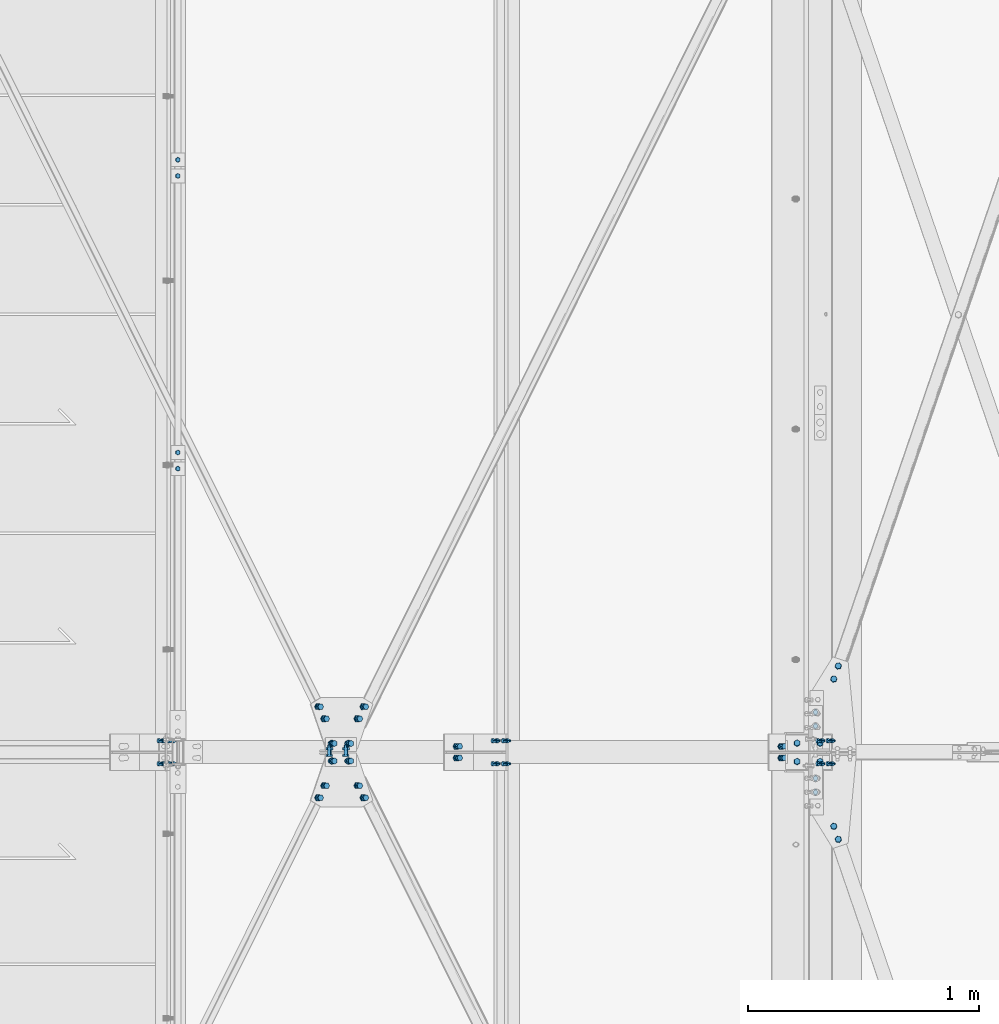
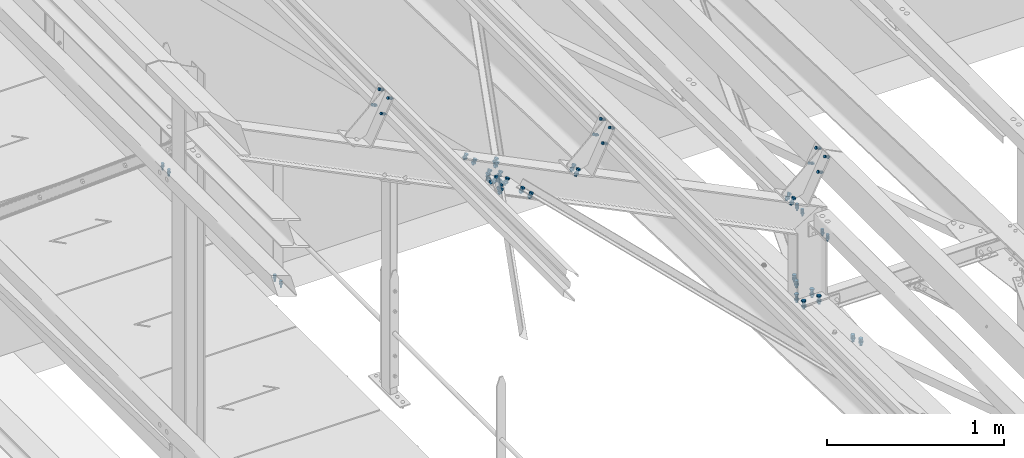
# One storey, part 189 of 362: 20 mechanical fasteners.
"""IFC2X3 building model written with IfcOpenShell, lengths in millimetres."""

from ifc_helpers import new_model, si_unit, frame, frame_2d, origin_with_axes, origin_2d_with_axis, place, context, subcontext, project, spatial, polyline, circle_curve, parameter, trimmed, segment, composite_curve, circle, outline, extrude, source, transform, mapped, material, type_object, element, save


model = new_model("IFC2X3")

# Units and contexts
model_context = context("Model", 3, precision=1e-05, world=origin_with_axes())
body_context = subcontext(model_context, "Body", "Model", "MODEL_VIEW")
ifc_project = project(units=[si_unit("LENGTHUNIT", "METRE", prefix="MILLI"), si_unit("AREAUNIT", "SQUARE_METRE"), si_unit("VOLUMEUNIT", "CUBIC_METRE"), si_unit("MASSUNIT", "GRAM", prefix="KILO"), si_unit("TIMEUNIT", "SECOND"), si_unit("PLANEANGLEUNIT", "RADIAN"), si_unit("SOLIDANGLEUNIT", "STERADIAN"), si_unit("THERMODYNAMICTEMPERATUREUNIT", "DEGREE_CELSIUS"), si_unit("LUMINOUSINTENSITYUNIT", "LUMEN")], contexts=[model_context])

# Site, building, storey
site_placement = place(None, origin_with_axes())
site = spatial("IfcSite", under=ifc_project, at=site_placement, Name="Undefined", CompositionType="ELEMENT")
building_placement = place(site_placement, origin_with_axes())
building = spatial("IfcBuilding", under=site, at=building_placement, Name="Undefined", CompositionType="ELEMENT")
storey_placement = place(building_placement, origin_with_axes())
storey = spatial("IfcBuildingStorey", under=building, at=storey_placement, Name="Undefined", CompositionType="ELEMENT", Elevation=0.0)

# Mechanical fasteners
ifc_material_1 = material(Name="8.8-SB-ZINGUE")
mechanical_fastener_type = type_object("IfcMechanicalFastenerType", Name="Bolt assembly")
shared_shape_1 = source(origin_with_axes(), body_context, "Body", "SweptSolid", [
    extrude(circle(Radius=7.0, at=origin_2d_with_axis()), frame((0.0, -0.100011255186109, 0.0), z_axis=(0.0, 1.0, 0.0), x_axis=(1.0, 0.0, 0.0)), (0.0, 0.0, 1.0), 3.1),
    extrude(circle(Radius=7.0, at=origin_2d_with_axis()), frame((0.0, -9.9, 0.0), z_axis=(0.0, 1.0, 0.0), x_axis=(1.0, 0.0, 0.0)), (0.0, 0.0, 1.0), 10.0),
    extrude(outline(polyline([(10.39230484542, 0.0), (5.19615242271, 9.00000000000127), (-5.19615242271, 9.00000000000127), (-10.39230484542, 0.0), (-5.19615242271, -9.00000000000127), (5.19615242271, -9.00000000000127), (10.39230484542, 0.0)])), frame((0.0, -17.92, 0.0), z_axis=(0.0, 1.0, 0.0), x_axis=(1.0, 0.0, 0.0)), (0.0, 0.0, 1.0), 7.92),
    extrude(circle(Radius=6.0, at=origin_2d_with_axis()), frame((0.0, -10.0000010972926, 0.0), z_axis=(0.0, 1.0, 0.0), x_axis=(1.0, 0.0, 0.0)), (0.0, 0.0, 1.0), 30.0),
    extrude(outline(polyline([(11.5008173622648, 0.0), (5.7504086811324, 9.96000000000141), (-5.7504086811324, 9.96000000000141), (-11.5008173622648, 0.0), (-5.7504086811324, -9.96000000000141), (5.7504086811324, -9.96000000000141), (11.5008173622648, 0.0)])), frame((0.0, 3.00000067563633, 0.0), z_axis=(0.0, 1.0, 0.0), x_axis=(1.0, 0.0, 0.0)), (0.0, 0.0, 1.0), 7.92),
])
mechanical_fastener_1_placement = place(storey_placement, frame((38381.4177064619, 3849.9999403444, 8807.89604207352), z_axis=(0.0, 1.0, 0.0), x_axis=(0.44122107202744, 0.0, 0.89739844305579)))
element("IfcMechanicalFastener", 1, at=mechanical_fastener_1_placement, inside=storey, type_object=mechanical_fastener_type, material=ifc_material_1, Name="Bolt assembly", NominalDiameter=12.0, NominalLength=30.0, context=body_context, shape_type="MappedRepresentation", body=[
    mapped(shared_shape_1, transform((0.0, 0.0, 0.0))),
    mapped(shared_shape_1, transform((99.9999999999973, -1.63709046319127e-11, 7.73070496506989e-12))),
])
shared_shape_2 = source(origin_with_axes(), body_context, "Body", "SweptSolid", [
    extrude(circle(Radius=7.0, at=origin_2d_with_axis()), frame((0.0, -0.10007666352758, 0.0), z_axis=(0.0, 1.0, 0.0), x_axis=(1.0, 0.0, 0.0)), (0.0, 0.0, 1.0), 3.1),
    extrude(circle(Radius=7.0, at=origin_2d_with_axis()), frame((0.0, -9.9, 0.0), z_axis=(0.0, 1.0, 0.0), x_axis=(1.0, 0.0, 0.0)), (0.0, 0.0, 1.0), 10.0),
    extrude(outline(polyline([(10.39230484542, 0.0), (5.19615242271, 9.00000000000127), (-5.19615242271, 9.00000000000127), (-10.39230484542, 0.0), (-5.19615242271, -9.00000000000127), (5.19615242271, -9.00000000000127), (10.39230484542, 0.0)])), frame((0.0, -17.92, 0.0), z_axis=(0.0, 1.0, 0.0), x_axis=(1.0, 0.0, 0.0)), (0.0, 0.0, 1.0), 7.92),
    extrude(circle(Radius=6.0, at=origin_2d_with_axis()), frame((0.0, -10.0000010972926, 0.0), z_axis=(0.0, 1.0, 0.0), x_axis=(1.0, 0.0, 0.0)), (0.0, 0.0, 1.0), 30.0),
    extrude(outline(polyline([(11.5008173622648, 0.0), (5.7504086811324, 9.96000000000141), (-5.7504086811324, 9.96000000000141), (-11.5008173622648, 0.0), (-5.7504086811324, -9.96000000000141), (5.7504086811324, -9.96000000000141), (11.5008173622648, 0.0)])), frame((0.0, 3.00000067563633, 0.0), z_axis=(0.0, 1.0, 0.0), x_axis=(1.0, 0.0, 0.0)), (0.0, 0.0, 1.0), 7.92),
])
mechanical_fastener_2_placement = place(storey_placement, frame((38381.4177064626, 3750.0000596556, 8807.89604207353), z_axis=(0.0, 1.0, 0.0), x_axis=(0.44122107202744, 0.0, 0.89739844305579)))
element("IfcMechanicalFastener", 2, at=mechanical_fastener_2_placement, inside=storey, type_object=mechanical_fastener_type, material=ifc_material_1, Name="Bolt assembly", NominalDiameter=12.0, NominalLength=30.0, context=body_context, shape_type="MappedRepresentation", body=[
    mapped(shared_shape_2, transform((0.0, 0.0, 0.0))),
    mapped(shared_shape_2, transform((99.9999999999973, -1.63709046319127e-11, 7.73070496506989e-12))),
])
shared_shape_3 = source(origin_with_axes(), body_context, "Body", "SweptSolid", [
    extrude(circle(Radius=7.0, at=origin_2d_with_axis()), frame((0.0, -10.0000010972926, 0.0), z_axis=(0.0, 1.0, 0.0), x_axis=(1.0, 0.0, 0.0)), (0.0, 0.0, 1.0), 10.1),
    extrude(outline(polyline([(10.39230484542, 0.0), (5.19615242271, 9.00000000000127), (-5.19615242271, 9.00000000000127), (-10.39230484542, 0.0), (-5.19615242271, -9.00000000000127), (5.19615242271, -9.00000000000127), (10.39230484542, 0.0)])), frame((0.0, -17.92, 0.0), z_axis=(0.0, 1.0, 0.0), x_axis=(1.0, 0.0, 0.0)), (0.0, 0.0, 1.0), 7.92),
    extrude(circle(Radius=6.0, at=origin_2d_with_axis()), frame((0.0, -10.0000010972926, 0.0), z_axis=(0.0, 1.0, 0.0), x_axis=(1.0, 0.0, 0.0)), (0.0, 0.0, 1.0), 40.0),
    extrude(outline(polyline([(11.5008173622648, 0.0), (5.7504086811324, 9.96000000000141), (-5.7504086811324, 9.96000000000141), (-11.5008173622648, 0.0), (-5.7504086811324, -9.96000000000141), (5.7504086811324, -9.96000000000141), (11.5008173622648, 0.0)])), frame((0.0, 0.0, 0.0), z_axis=(0.0, 1.0, 0.0), x_axis=(1.0, 0.0, 0.0)), (0.0, 0.0, 1.0), 7.92),
])
for number, where, z_axis, x_axis, name in (
    (3, (35593.9917149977, 5030.00343196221, 8240.00000373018), (-1.0, 0.0, 0.0), (0.0, 1.0, 0.0), "Bolt assembly"),
    (4, (35593.9917160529, 6300.00343196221, 8240.00000285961), (-1.0, 0.0, 0.0), (0.0, 1.0, 0.0), "Bolt assembly"),
):
    element("IfcMechanicalFastener", number, at=place(storey_placement, frame(where, z_axis=z_axis, x_axis=x_axis)), inside=storey, type_object=mechanical_fastener_type, material=ifc_material_1, Name=name, NominalDiameter=12.0, NominalLength=40.0, context=body_context, shape_type="MappedRepresentation", body=[
        mapped(shared_shape_3, transform((0.0, 0.0, 0.0))),
        mapped(shared_shape_3, transform((70.0, -2.91038304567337e-11, 2.18278728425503e-10))),
    ])
shared_shape_4 = source(origin_with_axes(), body_context, "Body", "SweptSolid", [
    extrude(circle(Radius=9.0, at=origin_2d_with_axis()), frame((0.0, -0.0999426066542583, 0.0), z_axis=(0.0, 1.0, 0.0), x_axis=(1.0, 0.0, 0.0)), (0.0, 0.0, 1.0), 8.6),
    extrude(circle(Radius=9.0, at=origin_2d_with_axis()), frame((0.0, -9.9, 0.0), z_axis=(0.0, 1.0, 0.0), x_axis=(1.0, 0.0, 0.0)), (0.0, 0.0, 1.0), 10.0),
    extrude(outline(polyline([(13.85640646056, 0.0), (6.92820323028, 12.0000000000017), (-6.92820323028, 12.0000000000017), (-13.85640646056, 0.0), (-6.92820323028, -12.0000000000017), (6.92820323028, -12.0000000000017), (13.85640646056, 0.0)])), frame((0.0, -20.5600000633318, 0.0), z_axis=(0.0, 1.0, 0.0), x_axis=(1.0, 0.0, 0.0)), (0.0, 0.0, 1.0), 10.56),
    extrude(circle(Radius=8.0, at=origin_2d_with_axis()), frame((0.0, -10.0000010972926, 0.0), z_axis=(0.0, 1.0, 0.0), x_axis=(1.0, 0.0, 0.0)), (0.0, 0.0, 1.0), 40.0),
    extrude(outline(polyline([(15.3344231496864, 0.0), (7.6672115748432, 13.2800000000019), (-7.6672115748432, 13.2800000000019), (-15.3344231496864, 0.0), (-7.6672115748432, -13.2800000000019), (7.6672115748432, -13.2800000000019), (15.3344231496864, 0.0)])), frame((0.0, 8.49999994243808, 0.0), z_axis=(0.0, 1.0, 0.0), x_axis=(1.0, 0.0, 0.0)), (0.0, 0.0, 1.0), 10.56),
])
for number, where, z_axis, x_axis, name in (
    (5, (38216.9694389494, 3800.00003751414, 8654.74007251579), (0.0, 1.0, 0.0), (0.897398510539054, 0.0, -0.44122093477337), "Bolt assembly"),
    (6, (36808.5190147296, 3800.00003751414, 9347.22819841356), (0.0, 1.0, 0.0), (0.897398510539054, 0.0, -0.44122093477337), "Bolt assembly"),
):
    element("IfcMechanicalFastener", number, at=place(storey_placement, frame(where, z_axis=z_axis, x_axis=x_axis)), inside=storey, type_object=mechanical_fastener_type, material=ifc_material_1, Name=name, NominalDiameter=16.0, NominalLength=40.0, context=body_context, shape_type="MappedRepresentation", body=[
        mapped(shared_shape_4, transform((0.0, 0.0, -25.0))),
        mapped(shared_shape_4, transform((0.0, 0.0, 25.0))),
    ])
shared_shape_5 = source(origin_with_axes(), body_context, "Body", "SweptSolid", [
    extrude(circle(Radius=7.0, at=origin_2d_with_axis()), frame((0.0, -0.10007666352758, 0.0), z_axis=(0.0, 1.0, 0.0), x_axis=(1.0, 0.0, 0.0)), (0.0, 0.0, 1.0), 1.6),
    extrude(circle(Radius=7.0, at=origin_2d_with_axis()), frame((0.0, -9.9, 0.0), z_axis=(0.0, 1.0, 0.0), x_axis=(1.0, 0.0, 0.0)), (0.0, 0.0, 1.0), 10.0),
    extrude(outline(polyline([(10.39230484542, 0.0), (5.19615242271, 9.00000000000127), (-5.19615242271, 9.00000000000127), (-10.39230484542, 0.0), (-5.19615242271, -9.00000000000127), (5.19615242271, -9.00000000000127), (10.39230484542, 0.0)])), frame((0.0, -17.92, 0.0), z_axis=(0.0, 1.0, 0.0), x_axis=(1.0, 0.0, 0.0)), (0.0, 0.0, 1.0), 7.92),
    extrude(circle(Radius=6.0, at=origin_2d_with_axis()), frame((0.0, -10.0000010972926, 0.0), z_axis=(0.0, 1.0, 0.0), x_axis=(1.0, 0.0, 0.0)), (0.0, 0.0, 1.0), 30.0),
    extrude(outline(polyline([(11.5008173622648, 0.0), (5.7504086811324, 9.96000000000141), (-5.7504086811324, 9.96000000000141), (-11.5008173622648, 0.0), (-5.7504086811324, -9.96000000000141), (5.7504086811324, -9.96000000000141), (11.5008173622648, 0.0)])), frame((0.0, 1.50001896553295, 0.0), z_axis=(0.0, 1.0, 0.0), x_axis=(1.0, 0.0, 0.0)), (0.0, 0.0, 1.0), 7.92),
])
for number, where, z_axis, x_axis, name in (
    (7, (35523.6927473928, 3800.0000596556, 10211.8298161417), (0.0, 1.0, 0.0), (0.44122107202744, 0.0, 0.89739844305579), "Bolt assembly"),
    (8, (36972.5260811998, 3800.0000596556, 9499.48675968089), (0.0, 1.0, 0.0), (0.44122107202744, 0.0, 0.89739844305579), "Bolt assembly"),
):
    element("IfcMechanicalFastener", number, at=place(storey_placement, frame(where, z_axis=z_axis, x_axis=x_axis)), inside=storey, type_object=mechanical_fastener_type, material=ifc_material_1, Name=name, NominalDiameter=12.0, NominalLength=30.0, context=body_context, shape_type="MappedRepresentation", body=[
        mapped(shared_shape_5, transform((0.0, 0.0, -50.0))),
        mapped(shared_shape_5, transform((102.00000000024, -2.51020537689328e-10, -50.0))),
        mapped(shared_shape_5, transform((0.0, 0.0, 50.0))),
        mapped(shared_shape_5, transform((102.00000000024, -2.51020537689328e-10, 50.0))),
    ])
ifc_material_2 = material(Name="#_SB-8.8-ZINGUE")
shared_shape_6 = source(origin_with_axes(), body_context, "Body", "SweptSolid", [
    extrude(circle(Radius=9.0, at=origin_2d_with_axis()), frame((0.0, -4.89938005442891, 0.0), z_axis=(0.0, 1.0, 0.0), x_axis=(1.0, 0.0, 0.0)), (0.0, 0.0, 1.0), 5.0),
    extrude(circle(Radius=9.0, at=origin_2d_with_axis()), frame((0.0, -0.0993474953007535, 0.0), z_axis=(0.0, 1.0, 0.0), x_axis=(1.0, 0.0, 0.0)), (0.0, 0.0, 1.0), 6.1),
    extrude(outline(polyline([(13.85640646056, 0.0), (6.92820323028, 12.0000000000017), (-6.92820323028, 12.0000000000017), (-13.85640646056, 0.0), (-6.92820323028, -12.0000000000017), (6.92820323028, -12.0000000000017), (13.85640646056, 0.0)])), frame((0.0, -15.5593800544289, 0.0), z_axis=(0.0, 1.0, 0.0), x_axis=(1.0, 0.0, 0.0)), (0.0, 0.0, 1.0), 10.56),
    extrude(circle(Radius=8.0, at=origin_2d_with_axis()), frame((0.0, -4.99938005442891, 0.0), z_axis=(0.0, 1.0, 0.0), x_axis=(1.0, 0.0, 0.0)), (0.0, 0.0, 1.0), 30.0),
    extrude(outline(polyline([(15.3344231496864, 0.0), (7.6672115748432, 13.2800000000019), (-7.6672115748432, 13.2800000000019), (-15.3344231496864, 0.0), (-7.6672115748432, -13.2800000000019), (7.6672115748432, -13.2800000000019), (15.3344231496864, 0.0)])), frame((0.0, 6.00065250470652, 0.0), z_axis=(0.0, 1.0, 0.0), x_axis=(1.0, 0.0, 0.0)), (0.0, 0.0, 1.0), 10.56),
])
for number, where, z_axis, x_axis, name in (
    (9, (36232.8227570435, 3945.08956473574, 9518.84629080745), (-0.78486955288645, -0.48483570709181, 0.385893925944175), (-0.435090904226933, 0.874605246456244, 0.213919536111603), "Bolt assembly"),
    (10, (36232.8227614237, 3654.91114200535, 9518.84629081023), (0.784869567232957, -0.484835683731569, -0.385893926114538), (-0.43509087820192, -0.874605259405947, 0.213919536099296), "Bolt assembly"),
):
    element("IfcMechanicalFastener", number, at=place(storey_placement, frame(where, z_axis=z_axis, x_axis=x_axis)), inside=storey, type_object=mechanical_fastener_type, material=ifc_material_2, Name=name, NominalDiameter=16.0, NominalLength=30.0, context=body_context, shape_type="MappedRepresentation", body=[
        mapped(shared_shape_6, transform((0.0, 0.0, 0.0))),
        mapped(shared_shape_6, transform((60.0, 0.0, 0.0))),
    ])
shared_shape_7 = source(origin_with_axes(), body_context, "Body", "SweptSolid", [
    extrude(circle(Radius=9.0, at=origin_2d_with_axis()), frame((0.0, 5.90002706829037, 0.0), z_axis=(0.0, 1.0, 0.0), x_axis=(1.0, 0.0, 0.0)), (0.0, 0.0, 1.0), 6.1),
    extrude(circle(Radius=9.0, at=origin_2d_with_axis()), frame((0.0, 0.1, 0.0), z_axis=(0.0, 1.0, 0.0), x_axis=(1.0, 0.0, 0.0)), (0.0, 0.0, 1.0), 6.0),
    extrude(outline(polyline([(13.85640646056, 0.0), (6.92820323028, 12.0000000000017), (-6.92820323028, 12.0000000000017), (-13.85640646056, 0.0), (-6.92820323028, -12.0000000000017), (6.92820323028, -12.0000000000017), (13.85640646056, 0.0)])), frame((0.0, -10.5600019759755, 0.0), z_axis=(0.0, 1.0, 0.0), x_axis=(1.0, 0.0, 0.0)), (0.0, 0.0, 1.0), 10.56),
    extrude(circle(Radius=8.0, at=origin_2d_with_axis()), frame((0.0, 0.0, 0.0), z_axis=(0.0, 1.0, 0.0), x_axis=(1.0, 0.0, 0.0)), (0.0, 0.0, 1.0), 40.0),
    extrude(outline(polyline([(15.3344231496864, 0.0), (7.6672115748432, 13.2800000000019), (-7.6672115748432, 13.2800000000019), (-15.3344231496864, 0.0), (-7.6672115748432, -13.2800000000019), (7.6672115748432, -13.2800000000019), (15.3344231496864, 0.0)])), frame((0.0, 12.0000270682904, 0.0), z_axis=(0.0, 1.0, 0.0), x_axis=(1.0, 0.0, 0.0)), (0.0, 0.0, 1.0), 10.56),
])
mechanical_fastener_3_placement = place(storey_placement, frame((36304.9967269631, 3838.00025185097, 9483.36008883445), z_axis=(0.897398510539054, 0.0, -0.44122093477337), x_axis=(0.0, -1.0, 0.0)))
element("IfcMechanicalFastener", 11, at=mechanical_fastener_3_placement, inside=storey, type_object=mechanical_fastener_type, material=ifc_material_2, Name="Bolt assembly", NominalDiameter=16.0, NominalLength=40.0, context=body_context, shape_type="MappedRepresentation", body=[
    mapped(shared_shape_7, transform((0.0, 0.0, 40.0))),
    mapped(shared_shape_7, transform((0.0, 0.0, -40.0))),
])
mechanical_fastener_4_placement = place(storey_placement, frame((36304.9967281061, 3762.00045705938, 9483.36008883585), z_axis=(-0.897398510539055, -1.29999898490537e-08, 0.441220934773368), x_axis=(0.0, 1.0, 0.0)))
element("IfcMechanicalFastener", 12, at=mechanical_fastener_4_placement, inside=storey, type_object=mechanical_fastener_type, material=ifc_material_2, Name="Bolt assembly", NominalDiameter=16.0, NominalLength=40.0, context=body_context, shape_type="MappedRepresentation", body=[
    mapped(shared_shape_7, transform((0.0, 0.0, -40.0))),
    mapped(shared_shape_7, transform((0.0, 0.0, 40.0))),
])
shared_shape_8 = source(origin_with_axes(), body_context, "Body", "SweptSolid", [
    extrude(circle(Radius=9.0, at=origin_2d_with_axis()), frame((0.0, -2.80035671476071, 0.0), z_axis=(0.0, 1.0, 0.0), x_axis=(1.0, 0.0, 0.0)), (0.0, 0.0, 1.0), 5.6),
    extrude(circle(Radius=9.0, at=origin_2d_with_axis()), frame((0.0, 2.89989517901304, 0.0), z_axis=(0.0, 1.0, 0.0), x_axis=(1.0, 0.0, 0.0)), (0.0, 0.0, 1.0), 6.1),
    extrude(circle(Radius=9.0, at=origin_2d_with_axis()), frame((0.0, -8.89990143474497, 0.0), z_axis=(0.0, 1.0, 0.0), x_axis=(1.0, 0.0, 0.0)), (0.0, 0.0, 1.0), 6.0),
    extrude(outline(polyline([(13.85640646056, 0.0), (6.92820323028, 12.0000000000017), (-6.92820323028, 12.0000000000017), (-13.85640646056, 0.0), (-6.92820323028, -12.0000000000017), (6.92820323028, -12.0000000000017), (13.85640646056, 0.0)])), frame((0.0, -19.559901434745, 0.0), z_axis=(0.0, 1.0, 0.0), x_axis=(1.0, 0.0, 0.0)), (0.0, 0.0, 1.0), 10.56),
    extrude(circle(Radius=8.0, at=origin_2d_with_axis()), frame((0.0, -8.99990143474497, 0.0), z_axis=(0.0, 1.0, 0.0), x_axis=(1.0, 0.0, 0.0)), (0.0, 0.0, 1.0), 40.0),
    extrude(outline(polyline([(15.3344231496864, 0.0), (7.6672115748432, 13.2800000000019), (-7.6672115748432, 13.2800000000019), (-15.3344231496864, 0.0), (-7.6672115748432, -13.2800000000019), (7.6672115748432, -13.2800000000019), (15.3344231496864, 0.0)])), frame((0.0, 8.9999337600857, 0.0), z_axis=(0.0, 1.0, 0.0), x_axis=(1.0, 0.0, 0.0)), (0.0, 0.0, 1.0), 10.56),
])
mechanical_fastener_5_placement = place(storey_placement, frame((36286.9066420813, 3800.00035728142, 9446.56672601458), z_axis=(-0.897398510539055, -1.29999898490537e-08, 0.441220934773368), x_axis=(0.44122107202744, 0.0, 0.89739844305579)))
element("IfcMechanicalFastener", 13, at=mechanical_fastener_5_placement, inside=storey, type_object=mechanical_fastener_type, material=ifc_material_2, Name="Bolt assembly", NominalDiameter=16.0, NominalLength=40.0, context=body_context, shape_type="MappedRepresentation", body=[
    mapped(shared_shape_8, transform((0.0, 0.0, 40.0))),
    mapped(shared_shape_8, transform((0.0, 0.0, -40.0))),
])
shared_shape_9 = source(origin_with_axes(), body_context, "Body", "SweptSolid", [
    extrude(circle(Radius=9.0, at=origin_2d_with_axis()), frame((0.0, -4.89932982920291, 0.0), z_axis=(0.0, 1.0, 0.0), x_axis=(1.0, 0.0, 0.0)), (0.0, 0.0, 1.0), 5.0),
    extrude(circle(Radius=9.0, at=origin_2d_with_axis()), frame((0.0, -0.0993474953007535, 0.0), z_axis=(0.0, 1.0, 0.0), x_axis=(1.0, 0.0, 0.0)), (0.0, 0.0, 1.0), 6.1),
    extrude(outline(polyline([(13.85640646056, 0.0), (6.92820323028, 12.0000000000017), (-6.92820323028, 12.0000000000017), (-13.85640646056, 0.0), (-6.92820323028, -12.0000000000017), (6.92820323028, -12.0000000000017), (13.85640646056, 0.0)])), frame((0.0, -15.5593298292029, 0.0), z_axis=(0.0, 1.0, 0.0), x_axis=(1.0, 0.0, 0.0)), (0.0, 0.0, 1.0), 10.56),
    extrude(circle(Radius=8.0, at=origin_2d_with_axis()), frame((0.0, -4.99932982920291, 0.0), z_axis=(0.0, 1.0, 0.0), x_axis=(1.0, 0.0, 0.0)), (0.0, 0.0, 1.0), 30.0),
    extrude(outline(polyline([(15.3344231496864, 0.0), (7.6672115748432, 13.2800000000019), (-7.6672115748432, 13.2800000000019), (-15.3344231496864, 0.0), (-7.6672115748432, -13.2800000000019), (7.6672115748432, -13.2800000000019), (15.3344231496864, 0.0)])), frame((0.0, 6.00065250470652, 0.0), z_axis=(0.0, 1.0, 0.0), x_axis=(1.0, 0.0, 0.0)), (0.0, 0.0, 1.0), 10.56),
])
for number, where, z_axis, x_axis, name in (
    (14, (36377.1778071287, 3945.08956389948, 9447.87177494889), (-0.78486955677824, 0.484835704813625, 0.385893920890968), (0.435090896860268, 0.874605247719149, -0.213919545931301), "Bolt assembly"),
    (15, (36377.1778115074, 3654.91114717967, 9447.87177493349), (0.784869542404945, 0.484835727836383, -0.385893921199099), (0.435090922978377, -0.874605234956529, -0.213919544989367), "Bolt assembly"),
):
    element("IfcMechanicalFastener", number, at=place(storey_placement, frame(where, z_axis=z_axis, x_axis=x_axis)), inside=storey, type_object=mechanical_fastener_type, material=ifc_material_2, Name=name, NominalDiameter=16.0, NominalLength=30.0, context=body_context, shape_type="MappedRepresentation", body=[
        mapped(shared_shape_9, transform((0.0, 0.0, 0.0))),
        mapped(shared_shape_9, transform((60.0, 0.0, 0.0))),
    ])
shared_shape_10 = source(origin_with_axes(), body_context, "Body", "SweptSolid", [
    extrude(circle(Radius=7.0, at=origin_2d_with_axis()), frame((0.0, -3.89999843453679, 0.0), z_axis=(0.0, 1.0, 0.0), x_axis=(1.0, 0.0, 0.0)), (0.0, 0.0, 1.0), 4.0),
    extrude(outline(composite_curve([segment(polyline([(-7.0, 7.0), (7.0, 7.0)]), True, "CONTINUOUS"), segment(trimmed(circle_curve(frame_2d((7.0, 0.0), x_axis=(0.0, 1.0)), 7.0), [parameter(0.0)], [parameter(3.14159265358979)], False, "PARAMETER"), True, "CONTINUOUS"), segment(polyline([(7.0, -7.0), (-7.0, -7.0)]), True, "CONTINUOUS"), segment(trimmed(circle_curve(frame_2d((-7.0, 0.0), x_axis=(0.0, -1.0)), 7.0), [parameter(0.0)], [parameter(3.14159265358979)], False, "PARAMETER"), True, "DISCONTINUOUS")], self_intersect=False)), frame((0.0, -0.100011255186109, 0.0), z_axis=(0.0, 1.0, 0.0), x_axis=(1.0, 0.0, 0.0)), (0.0, 0.0, 1.0), 10.1),
    extrude(outline(polyline([(10.39230484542, 0.0), (5.19615242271, 9.00000000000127), (-5.19615242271, 9.00000000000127), (-10.39230484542, 0.0), (-5.19615242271, -9.00000000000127), (5.19615242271, -9.00000000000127), (10.39230484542, 0.0)])), frame((0.0, -11.9199984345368, 0.0), z_axis=(0.0, 1.0, 0.0), x_axis=(1.0, 0.0, 0.0)), (0.0, 0.0, 1.0), 7.92),
    extrude(circle(Radius=6.0, at=origin_2d_with_axis()), frame((0.0, -3.99999923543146, 0.0), z_axis=(0.0, 1.0, 0.0), x_axis=(1.0, 0.0, 0.0)), (0.0, 0.0, 1.0), 40.0),
    extrude(circle(Radius=10.8, at=origin_2d_with_axis()), frame((0.0, 10.0000000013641, 0.0), z_axis=(0.0, 1.0, 0.0), x_axis=(1.0, 0.0, 0.0)), (0.0, 0.0, 1.0), 3.96),
    extrude(outline(polyline([(11.5008173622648, 0.0), (5.7504086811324, 9.96000000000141), (-5.7504086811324, 9.96000000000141), (-11.5008173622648, 0.0), (-5.7504086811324, -9.96000000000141), (5.7504086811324, -9.96000000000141), (11.5008173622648, 0.0)])), frame((0.0, 13.96, 0.0), z_axis=(0.0, 1.0, 0.0), x_axis=(1.0, 0.0, 0.0)), (0.0, 0.0, 1.0), 7.92),
])
mechanical_fastener_6_placement = place(storey_placement, frame((38360.0, 3973.5, 8450.0), z_axis=(1.0, 0.0, 0.0), x_axis=(0.0, -1.0, 0.0)))
element("IfcMechanicalFastener", 16, at=mechanical_fastener_6_placement, inside=storey, type_object=mechanical_fastener_type, material=ifc_material_1, Name="Bolt assembly", NominalDiameter=12.0, NominalLength=40.0, context=body_context, shape_type="MappedRepresentation", body=[
    mapped(shared_shape_10, transform((0.0, 0.0, 0.0))),
    mapped(shared_shape_10, transform((60.0, 0.0, 0.0))),
])
shared_shape_11 = source(origin_with_axes(), body_context, "Body", "SweptSolid", [
    extrude(circle(Radius=7.0, at=origin_2d_with_axis()), frame((0.0, -3.89999843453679, 0.0), z_axis=(0.0, 1.0, 0.0), x_axis=(1.0, 0.0, 0.0)), (0.0, 0.0, 1.0), 4.0),
    extrude(outline(composite_curve([segment(polyline([(-7.0, 7.0), (7.0, 7.0)]), True, "CONTINUOUS"), segment(trimmed(circle_curve(frame_2d((7.0, 0.0), x_axis=(0.0, 1.0)), 7.0), [parameter(0.0)], [parameter(3.14159265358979)], False, "PARAMETER"), True, "CONTINUOUS"), segment(polyline([(7.0, -7.0), (-7.0, -7.0)]), True, "CONTINUOUS"), segment(trimmed(circle_curve(frame_2d((-7.0, 0.0), x_axis=(0.0, -1.0)), 7.0), [parameter(0.0)], [parameter(3.14159265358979)], False, "PARAMETER"), True, "DISCONTINUOUS")], self_intersect=False)), frame((0.0, -0.100011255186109, 0.0), z_axis=(0.0, 1.0, 0.0), x_axis=(1.0, 0.0, 0.0)), (0.0, 0.0, 1.0), 10.1),
    extrude(outline(polyline([(10.39230484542, 0.0), (5.19615242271, 9.00000000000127), (-5.19615242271, 9.00000000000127), (-10.39230484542, 0.0), (-5.19615242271, -9.00000000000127), (5.19615242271, -9.00000000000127), (10.39230484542, 0.0)])), frame((0.0, -11.9199984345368, 0.0), z_axis=(0.0, 1.0, 0.0), x_axis=(1.0, 0.0, 0.0)), (0.0, 0.0, 1.0), 7.92),
    extrude(circle(Radius=6.0, at=origin_2d_with_axis()), frame((0.0, -3.99999923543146, 0.0), z_axis=(0.0, 1.0, 0.0), x_axis=(1.0, 0.0, 0.0)), (0.0, 0.0, 1.0), 40.0),
    extrude(circle(Radius=10.8, at=origin_2d_with_axis()), frame((0.0, 10.0000000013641, 0.0), z_axis=(0.0, 1.0, 0.0), x_axis=(1.0, 0.0, 0.0)), (0.0, 0.0, 1.0), 3.96),
    extrude(outline(polyline([(11.5008173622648, 0.0), (5.7504086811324, 9.96000000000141), (-5.7504086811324, 9.96000000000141), (-11.5008173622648, 0.0), (-5.7504086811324, -9.96000000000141), (5.7504086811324, -9.96000000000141), (11.5008173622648, 0.0)])), frame((0.0, 13.96, 0.0), z_axis=(0.0, 1.0, 0.0), x_axis=(1.0, 0.0, 0.0)), (0.0, 0.0, 1.0), 7.92),
])
mechanical_fastener_7_placement = place(storey_placement, frame((38360.0, 3626.5, 8450.0), z_axis=(-1.0, 0.0, 0.0), x_axis=(0.0, 1.0, 0.0)))
element("IfcMechanicalFastener", 17, at=mechanical_fastener_7_placement, inside=storey, type_object=mechanical_fastener_type, material=ifc_material_1, Name="Bolt assembly", NominalDiameter=12.0, NominalLength=40.0, context=body_context, shape_type="MappedRepresentation", body=[
    mapped(shared_shape_11, transform((0.0, 0.0, 0.0))),
    mapped(shared_shape_11, transform((60.0, 0.0, 0.0))),
])
shared_shape_12 = source(origin_with_axes(), body_context, "Body", "SweptSolid", [
    extrude(circle(Radius=9.0, at=origin_2d_with_axis()), frame((0.0, -0.100011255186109, 0.0), z_axis=(0.0, 1.0, 0.0), x_axis=(1.0, 0.0, 0.0)), (0.0, 0.0, 1.0), 14.7),
    extrude(circle(Radius=9.0, at=origin_2d_with_axis()), frame((0.0, -9.9, 0.0), z_axis=(0.0, 1.0, 0.0), x_axis=(1.0, 0.0, 0.0)), (0.0, 0.0, 1.0), 10.0),
    extrude(outline(polyline([(13.85640646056, 0.0), (6.92820323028, 12.0000000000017), (-6.92820323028, 12.0000000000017), (-13.85640646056, 0.0), (-6.92820323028, -12.0000000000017), (6.92820323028, -12.0000000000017), (13.85640646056, 0.0)])), frame((0.0, -20.5600000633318, 0.0), z_axis=(0.0, 1.0, 0.0), x_axis=(1.0, 0.0, 0.0)), (0.0, 0.0, 1.0), 10.56),
    extrude(circle(Radius=8.0, at=origin_2d_with_axis()), frame((0.0, -10.0000010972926, 0.0), z_axis=(0.0, 1.0, 0.0), x_axis=(1.0, 0.0, 0.0)), (0.0, 0.0, 1.0), 50.0),
    extrude(outline(polyline([(15.3344231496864, 0.0), (7.6672115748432, 13.2800000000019), (-7.6672115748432, 13.2800000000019), (-15.3344231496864, 0.0), (-7.6672115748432, -13.2800000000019), (7.6672115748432, -13.2800000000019), (15.3344231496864, 0.0)])), frame((0.0, 14.5999903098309, 0.0), z_axis=(0.0, 1.0, 0.0), x_axis=(1.0, 0.0, 0.0)), (0.0, 0.0, 1.0), 10.56),
])
mechanical_fastener_8_placement = place(storey_placement, frame((38330.0, 3759.70531343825, 7931.84792272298), z_axis=(-1.0, 0.0, 0.0), x_axis=(3.14103090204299e-11, 0.999506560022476, -0.0314107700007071)))
element("IfcMechanicalFastener", 18, at=mechanical_fastener_8_placement, inside=storey, type_object=mechanical_fastener_type, material=ifc_material_1, Name="Bolt assembly", NominalDiameter=16.0, NominalLength=50.0, context=body_context, shape_type="MappedRepresentation", body=[
    mapped(shared_shape_12, transform((0.0, 0.0, -50.0))),
    mapped(shared_shape_12, transform((79.9999999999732, 9.09494701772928e-13, -50.0))),
    mapped(shared_shape_12, transform((0.0, 0.0, 50.0))),
    mapped(shared_shape_12, transform((79.9999999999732, 9.09494701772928e-13, 50.0))),
])
shared_shape_13 = source(origin_with_axes(), body_context, "Body", "SweptSolid", [
    extrude(circle(Radius=9.0, at=origin_2d_with_axis()), frame((0.0, -8.89476635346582, 0.0), z_axis=(0.0, 1.0, 0.0), x_axis=(1.0, 0.0, 0.0)), (0.0, 0.0, 1.0), 6.0),
    extrude(circle(Radius=9.0, at=origin_2d_with_axis()), frame((0.0, -3.09999932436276, 0.0), z_axis=(0.0, 1.0, 0.0), x_axis=(1.0, 0.0, 0.0)), (0.0, 0.0, 1.0), 6.1),
    extrude(outline(polyline([(13.85640646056, 0.0), (6.92820323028, 12.0000000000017), (-6.92820323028, 12.0000000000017), (-13.85640646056, 0.0), (-6.92820323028, -12.0000000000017), (6.92820323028, -12.0000000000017), (13.85640646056, 0.0)])), frame((0.0, -19.5547663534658, 0.0), z_axis=(0.0, 1.0, 0.0), x_axis=(1.0, 0.0, 0.0)), (0.0, 0.0, 1.0), 10.56),
    extrude(circle(Radius=8.0, at=origin_2d_with_axis()), frame((0.0, -8.99476635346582, 0.0), z_axis=(0.0, 1.0, 0.0), x_axis=(1.0, 0.0, 0.0)), (0.0, 0.0, 1.0), 40.0),
    extrude(outline(polyline([(15.3344231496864, 0.0), (7.6672115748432, 13.2800000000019), (-7.6672115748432, 13.2800000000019), (-15.3344231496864, 0.0), (-7.6672115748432, -13.2800000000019), (7.6672115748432, -13.2800000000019), (15.3344231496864, 0.0)])), frame((0.0, 3.00000067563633, 0.0), z_axis=(0.0, 1.0, 0.0), x_axis=(1.0, 0.0, 0.0)), (0.0, 0.0, 1.0), 10.56),
])
mechanical_fastener_9_placement = place(storey_placement, frame((38439.2699598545, 4117.42478508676, 7797.54398916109), z_axis=(-0.946212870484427, 0.323385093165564, -0.0101629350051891), x_axis=(0.323545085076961, 0.945745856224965, -0.0297212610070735)))
element("IfcMechanicalFastener", 19, at=mechanical_fastener_9_placement, inside=storey, type_object=mechanical_fastener_type, material=ifc_material_1, Name="Bolt assembly", NominalDiameter=16.0, NominalLength=40.0, context=body_context, shape_type="MappedRepresentation", body=[
    mapped(shared_shape_13, transform((0.0, 0.0, 0.0))),
    mapped(shared_shape_13, transform((60.0, 0.0, 0.0))),
])
shared_shape_14 = source(origin_with_axes(), body_context, "Body", "SweptSolid", [
    extrude(circle(Radius=9.0, at=origin_2d_with_axis()), frame((0.0, 2.90527224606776, 0.0), z_axis=(0.0, 1.0, 0.0), x_axis=(1.0, 0.0, 0.0)), (0.0, 0.0, 1.0), 6.1),
    extrude(circle(Radius=9.0, at=origin_2d_with_axis()), frame((0.0, -2.9, 0.0), z_axis=(0.0, 1.0, 0.0), x_axis=(1.0, 0.0, 0.0)), (0.0, 0.0, 1.0), 6.0),
    extrude(outline(polyline([(13.85640646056, 0.0), (6.92820323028, 12.0000000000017), (-6.92820323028, 12.0000000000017), (-13.85640646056, 0.0), (-6.92820323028, -12.0000000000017), (6.92820323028, -12.0000000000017), (13.85640646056, 0.0)])), frame((0.0, -13.56, 0.0), z_axis=(0.0, 1.0, 0.0), x_axis=(1.0, 0.0, 0.0)), (0.0, 0.0, 1.0), 10.56),
    extrude(circle(Radius=8.0, at=origin_2d_with_axis()), frame((0.0, -2.99999932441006, 0.0), z_axis=(0.0, 1.0, 0.0), x_axis=(1.0, 0.0, 0.0)), (0.0, 0.0, 1.0), 40.0),
    extrude(outline(polyline([(15.3344231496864, 0.0), (7.6672115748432, 13.2800000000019), (-7.6672115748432, 13.2800000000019), (-15.3344231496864, 0.0), (-7.6672115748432, -13.2800000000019), (7.6672115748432, -13.2800000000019), (15.3344231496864, 0.0)])), frame((0.0, 9.00527224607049, 0.0), z_axis=(0.0, 1.0, 0.0), x_axis=(1.0, 0.0, 0.0)), (0.0, 0.0, 1.0), 10.56),
])
mechanical_fastener_10_placement = place(storey_placement, frame((38439.2699773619, 3478.61578898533, 7817.61937058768), z_axis=(0.946212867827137, 0.323385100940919, -0.0101629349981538), x_axis=(0.323544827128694, -0.94574594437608, 0.0297212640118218)))
element("IfcMechanicalFastener", 20, at=mechanical_fastener_10_placement, inside=storey, type_object=mechanical_fastener_type, material=ifc_material_1, Name="Bolt assembly", NominalDiameter=16.0, NominalLength=40.0, context=body_context, shape_type="MappedRepresentation", body=[
    mapped(shared_shape_14, transform((0.0, 0.0, 0.0))),
    mapped(shared_shape_14, transform((60.0, 0.0, 0.0))),
])

save(model, "model.ifc")
